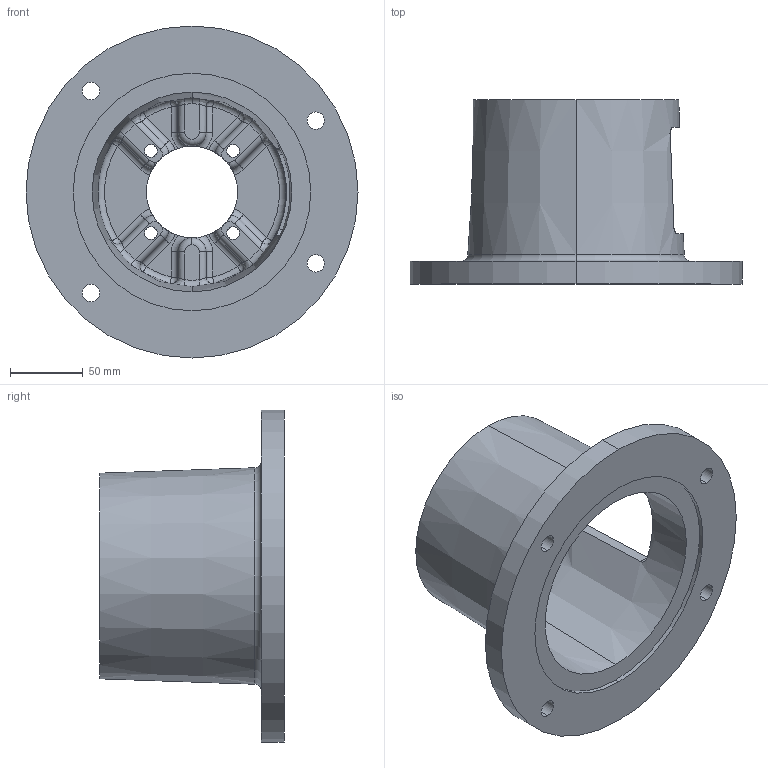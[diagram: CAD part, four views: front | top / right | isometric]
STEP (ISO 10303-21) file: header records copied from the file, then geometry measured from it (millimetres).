
FILE_DESCRIPTION (( 'STEP AP203' ), '1' );
FILE_NAME ('E6445063MS.STEP', '2014-11-03T17:48:07', ( '' ), ( '' ), 'SwSTEP 2.0', 'SolidWorks 2014', '' );
FILE_SCHEMA (( 'CONFIG_CONTROL_DESIGN' ));
Length unit declared in the file: inch
Products named in the file (1): E6445063MS
Bounding box: 228.6 x 127 x 228.6 mm (x, y, z)
Volume: 778823.7 mm3; surface area: 183610.3 mm2
Topology: 1 solids, 1 shells, 172 faces, 426 edges, 246 vertices
Faces by surface type: cylinder 61, torus 39, plane 32, bspline 24, sphere 12, cone 4
Entity records: 6978 total; most frequent: CARTESIAN_POINT 2945, DIRECTION 859, ORIENTED_EDGE 828, EDGE_CURVE 414, AXIS2_PLACEMENT_3D 378, VERTEX_POINT 246, CIRCLE 229, EDGE_LOOP 194
